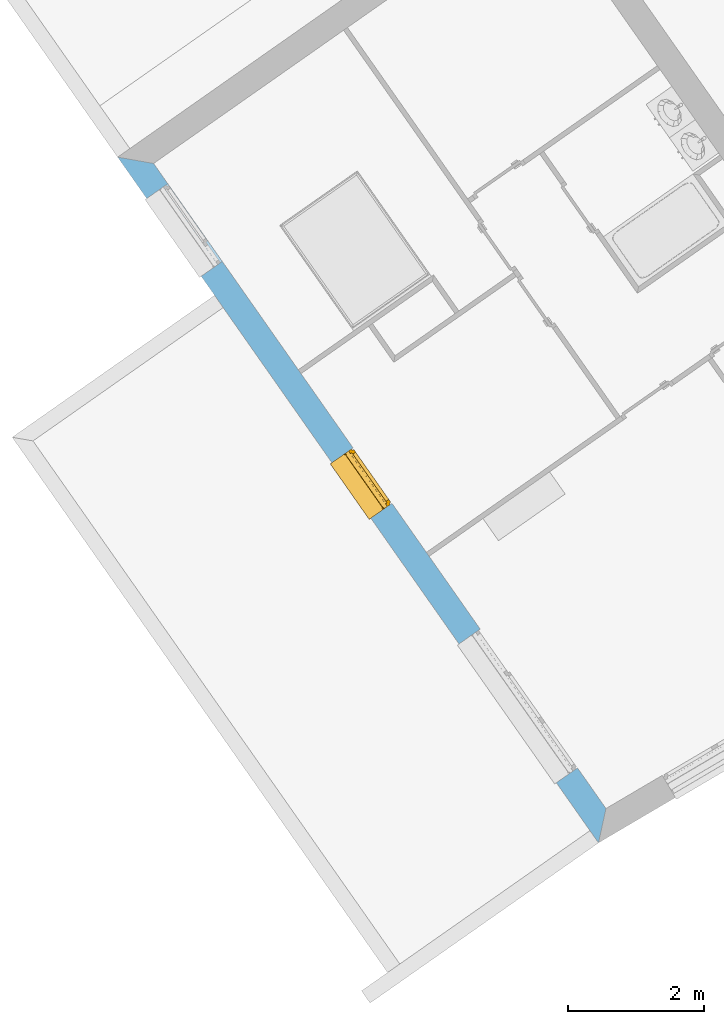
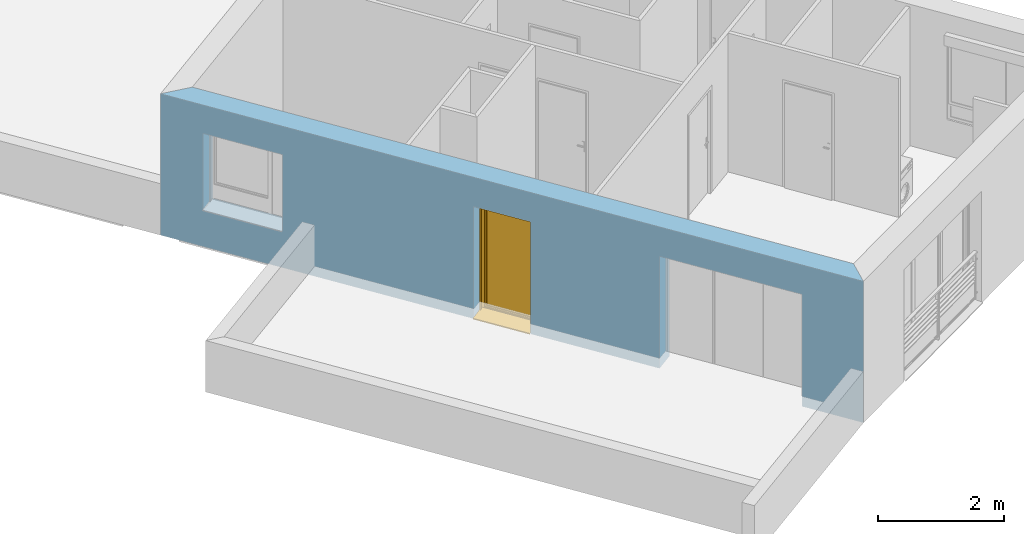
# One storey, part 26 of 121: 1 window, 3 openings, plus 1 element that does not belong to this part.
"""IFC2X3 building model written with IfcOpenShell, lengths in metres."""

import ifcopenshell
import ifcopenshell.guid

model = None  # the IFC model being written
_history = None  # IfcOwnerHistory: only IFC2X3 demands one
_inside = {}  # id of a spatial element -> (the spatial element, [elements in it])
_under = {}  # id of a project, library or spatial element -> (it, [spatial elements below it])
_declared = {}  # id of a project -> (the project, [libraries it declares])
_typed = {}  # id of a type object -> (the type object, [elements of that type])
_made_of = {}  # id of a material, layer set ... -> (it, [elements and type objects made of it])


def new_model(schema):
    """Start an empty IFC model of exactly this schema.

    Asked for "IFC4X3", IfcOpenShell would pick the latest addendum, in which some entities
    have other attributes; the version numbers below select the first issue.
    IFC2X3 requires an IfcOwnerHistory on every rooted entity: one is made here for all.
    """
    global model, _history
    if schema == "IFC4X3":
        model = ifcopenshell.file(schema_version=(4, 3, 0, 0))
    else:
        model = ifcopenshell.file(schema=schema)
    _inside.clear()
    _under.clear()
    _declared.clear()
    _typed.clear()
    _made_of.clear()
    _history = None
    if model.schema == "IFC2X3":
        org = make("IfcOrganization", Name="unknown")
        user = make(
            "IfcPersonAndOrganization",
            ThePerson=make("IfcPerson", FamilyName="unknown"),
            TheOrganization=org,
        )
        app = make(
            "IfcApplication",
            ApplicationDeveloper=org,
            Version="unknown",
            ApplicationFullName="unknown",
            ApplicationIdentifier="unknown",
        )
        _history = make(
            "IfcOwnerHistory",
            OwningUser=user,
            OwningApplication=app,
            ChangeAction="ADDED",
            CreationDate=0,
        )
    return model


def make(cls, **values):
    """One entity of the class cls with the attributes given. An attribute that is None is left unset."""
    return model.create_entity(
        cls, **{name: value for name, value in values.items() if value is not None}
    )


def entity(cls, *values):
    """Any entity or typed value of the class cls, its attributes in the order of the schema. None: left unset."""
    e = model.create_entity(cls)
    for i, value in enumerate(values):
        if value is not None:
            e[i] = value
    return e


def rooted(cls, **values):
    """An entity with a GlobalId (a new one), such as an element, a storey or a relation."""
    return make(cls, GlobalId=ifcopenshell.guid.new(), OwnerHistory=_history, **values)


def si_unit(unit_type, name, prefix=None):
    """IfcSIUnit, for example si_unit("LENGTHUNIT", "METRE", prefix="MILLI")."""
    return make("IfcSIUnit", UnitType=unit_type, Prefix=prefix, Name=name)


def converted_unit(unit_type, name, factor, base, dimensions=None, offset=None):
    """IfcConversionBasedUnit, such as the inch: factor (a typed value) times the base unit."""
    return make(
        "IfcConversionBasedUnit"
        if offset is None
        else "IfcConversionBasedUnitWithOffset",
        ConversionOffset=offset,
        Dimensions=None
        if dimensions is None
        else entity("IfcDimensionalExponents", *dimensions),
        UnitType=unit_type,
        Name=name,
        ConversionFactor=make(
            "IfcMeasureWithUnit", ValueComponent=factor, UnitComponent=base
        ),
    )


def derived_unit(unit_type, elements):
    """IfcDerivedUnit: a product of units, each with its exponent."""
    return make(
        "IfcDerivedUnit",
        Elements=[
            make("IfcDerivedUnitElement", Unit=unit, Exponent=power)
            for unit, power in elements
        ],
        UnitType=unit_type,
    )


def money_unit(currency):
    """IfcMonetaryUnit."""
    return make("IfcMonetaryUnit", Currency=currency)


def assignment(units):
    """IfcUnitAssignment: the units of a project."""
    return None if units is None else make("IfcUnitAssignment", Units=units)


def point(xyz):
    """IfcCartesianPoint."""
    return None if xyz is None else make("IfcCartesianPoint", Coordinates=xyz)


def direction(xyz):
    """IfcDirection."""
    return None if xyz is None else make("IfcDirection", DirectionRatios=xyz)


def frame(location, z_axis=None, x_axis=None):
    """IfcAxis2Placement3D, a coordinate frame: its origin and axes. An axis left out is left unset."""
    return make(
        "IfcAxis2Placement3D",
        Location=point(location),
        Axis=direction(z_axis),
        RefDirection=direction(x_axis),
    )


def origin_with_axes():
    """The frame at (0, 0, 0) with the z axis (0, 0, 1) and the x axis (1, 0, 0) written out."""
    return frame((0.0, 0.0, 0.0), z_axis=(0.0, 0.0, 1.0), x_axis=(1.0, 0.0, 0.0))


def place(relative_to, where):
    """IfcLocalPlacement: puts the frame where relative to a parent placement (None: the world)."""
    return make(
        "IfcLocalPlacement", PlacementRelTo=relative_to, RelativePlacement=where
    )


def context(
    kind, dimensions, precision=None, world=None, true_north=None, identifier=None
):
    """IfcGeometricRepresentationContext, for example the 3D "Model" context."""
    return make(
        "IfcGeometricRepresentationContext",
        ContextIdentifier=identifier,
        ContextType=kind,
        CoordinateSpaceDimension=dimensions,
        Precision=precision,
        WorldCoordinateSystem=world,
        TrueNorth=true_north,
    )


def subcontext(parent, identifier, kind, view, scale=None):
    """IfcGeometricRepresentationSubContext, for example "Body" below "Model"."""
    return make(
        "IfcGeometricRepresentationSubContext",
        ContextIdentifier=identifier,
        ContextType=kind,
        ParentContext=parent,
        TargetScale=scale,
        TargetView=view,
    )


def project(units=None, contexts=None):
    """IfcProject with its units and contexts."""
    return rooted(
        "IfcProject",
        Name="project",
        RepresentationContexts=contexts,
        UnitsInContext=assignment(units),
    )


def spatial(cls, under=None, at=None, **own):
    """A site, building, storey or space (cls), placed at a placement, below another one or the project."""
    s = rooted(cls, ObjectPlacement=at, **own)
    if under is not None:
        _under.setdefault(under.id(), (under, []))[1].append(s)
    return s


def polyline(points):
    """IfcPolyline through the points."""
    return make("IfcPolyline", Points=[point(p) for p in points])


def outline(outer, holes=None, kind="AREA"):
    """IfcArbitraryClosedProfileDef: a profile drawn as a closed curve; with holes, ...WithVoids."""
    if holes is None:
        return make("IfcArbitraryClosedProfileDef", ProfileType=kind, OuterCurve=outer)
    return make(
        "IfcArbitraryProfileDefWithVoids",
        ProfileType=kind,
        OuterCurve=outer,
        InnerCurves=holes,
    )


def extrude(swept, where, along, depth):
    """IfcExtrudedAreaSolid: the profile swept, set in the frame where, extruded along a direction by depth."""
    return make(
        "IfcExtrudedAreaSolid",
        SweptArea=swept,
        Position=where,
        ExtrudedDirection=direction(along),
        Depth=depth,
    )


def faces_of(points, faces, orient=None, outer=None):
    """IfcFace entities. A face is a list of loops; a loop is a list of indices into points, from 0.

    orient and outer hold one flag for each loop. By default every Orientation is true, the
    first loop of a face is its IfcFaceOuterBound and the others are IfcFaceBound.
    """
    made = []
    for i, loops in enumerate(faces):
        bounds = []
        for j, loop in enumerate(loops):
            is_outer = j == 0 if outer is None else outer[i][j]
            bounds.append(
                make(
                    "IfcFaceOuterBound" if is_outer else "IfcFaceBound",
                    Bound=make("IfcPolyLoop", Polygon=[points[k] for k in loop]),
                    Orientation=True if orient is None else orient[i][j],
                )
            )
        made.append(make("IfcFace", Bounds=bounds))
    return made


def open_shell(faces, orient=None, outer=None):
    """The faces of one IfcOpenShell. surface_model builds it on its shared points."""
    return ("IfcOpenShell", faces, orient, outer)


def faceted_brep(points, faces, orient=None, outer=None, voids=None):
    """IfcFacetedBrep: a solid bounded by flat faces; with voids (closed shells), ...WithVoids."""
    shared = [point(p) for p in points]
    hull = make("IfcClosedShell", CfsFaces=faces_of(shared, faces, orient, outer))
    if voids is None:
        return make("IfcFacetedBrep", Outer=hull)
    return make(
        "IfcFacetedBrepWithVoids",
        Outer=hull,
        Voids=[
            make(cls, CfsFaces=faces_of(shared, fs, o, b)) for cls, fs, o, b in voids
        ],
    )


def surface_model(cls, points, shells):
    """IfcFaceBasedSurfaceModel or IfcShellBasedSurfaceModel (cls): surfaces that need not close."""
    shared = [point(p) for p in points]
    made = [make(c, CfsFaces=faces_of(shared, fs, o, b)) for c, fs, o, b in shells]
    if cls == "IfcFaceBasedSurfaceModel":
        return make(cls, FbsmFaces=made)
    return make(cls, SbsmBoundary=made)


def shape(context_of_items, identifier, shape_type, items):
    """IfcShapeRepresentation: the items that make up one representation, for example the "Body"."""
    return make(
        "IfcShapeRepresentation",
        ContextOfItems=context_of_items,
        RepresentationIdentifier=identifier,
        RepresentationType=shape_type,
        Items=items,
    )


def source(mapping_origin, context_of_items, identifier, shape_type, items):
    """IfcRepresentationMap: a shape defined once, which mapped items show again and again."""
    return make(
        "IfcRepresentationMap",
        MappingOrigin=mapping_origin,
        MappedRepresentation=shape(context_of_items, identifier, shape_type, items),
    )


def transform(
    local_origin,
    x_axis=None,
    y_axis=None,
    z_axis=None,
    scale=None,
    scale2=None,
    scale3=None,
    uniform=True,
):
    """IfcCartesianTransformationOperator3D, or its non-uniform kind. x_axis, y_axis, z_axis: its Axis1, 2, 3."""
    if uniform:
        return make(
            "IfcCartesianTransformationOperator3D",
            Axis1=direction(x_axis),
            Axis2=direction(y_axis),
            LocalOrigin=point(local_origin),
            Scale=scale,
            Axis3=direction(z_axis),
        )
    return make(
        "IfcCartesianTransformationOperator3DnonUniform",
        Axis1=direction(x_axis),
        Axis2=direction(y_axis),
        LocalOrigin=point(local_origin),
        Scale=scale,
        Axis3=direction(z_axis),
        Scale2=scale2,
        Scale3=scale3,
    )


def mapped(mapping_source, mapping_target):
    """IfcMappedItem: shows the shape of a source again, moved by a transform."""
    return make(
        "IfcMappedItem", MappingSource=mapping_source, MappingTarget=mapping_target
    )


def material(Name=None, Category=None):
    """IfcMaterial."""
    return make("IfcMaterial", Name=Name, Category=Category)


def layer(
    of_material, thickness, ventilated=None, Name=None, Category=None, Priority=None
):
    """IfcMaterialLayer: one layer of a wall or slab, of a material (None: an air gap)."""
    return make(
        "IfcMaterialLayer",
        Material=of_material,
        LayerThickness=thickness,
        IsVentilated=ventilated,
        Name=Name,
        Category=Category,
        Priority=Priority,
    )


def layer_set(layers, Name=None):
    """IfcMaterialLayerSet."""
    return make("IfcMaterialLayerSet", MaterialLayers=layers, LayerSetName=Name)


def layer_usage(for_layer_set, set_direction, sense, offset, extent=None):
    """IfcMaterialLayerSetUsage: how a layer set lies in its element."""
    return make(
        "IfcMaterialLayerSetUsage",
        ForLayerSet=for_layer_set,
        LayerSetDirection=set_direction,
        DirectionSense=sense,
        OffsetFromReferenceLine=offset,
        ReferenceExtent=extent,
    )


def made_of(thing, what):
    """Note that an element or type object is made of a material, layer set ...; save() writes the relation."""
    if what is not None:
        _made_of.setdefault(what.id(), (what, []))[1].append(thing)
    return thing


def type_object(cls, material=None, **own):
    """A type object (cls), such as IfcWallType, which elements share."""
    return made_of(rooted(cls, **own), material)


def element(
    cls,
    number,
    at=None,
    inside=None,
    cuts=None,
    type_object=None,
    material=None,
    context=None,
    identifier="Body",
    shape_type=None,
    held_by="IfcProductDefinitionShape",
    body=None,
    shapes=None,
    **own,
):
    """One element of the class cls, such as IfcWall. Its Tag is "e" and its number.

    at: its placement. inside: the storey or other place that contains it. cuts: it is an
    opening in that element (IfcRelVoidsElement). A single representation is given by context,
    identifier, shape_type and body (its items); several are given by shapes. held_by: the class
    of the entity that holds the representations. save() writes the other relations.
    """
    e = rooted(cls, Tag="e%d" % number, ObjectPlacement=at, **own)
    if body is not None:
        shapes = [shape(context, identifier, shape_type, body)]
    if shapes is not None:
        e.Representation = make(held_by, Representations=shapes)
    if inside is not None:
        _inside.setdefault(inside.id(), (inside, []))[1].append(e)
    if cuts is not None:
        rooted(
            "IfcRelVoidsElement", RelatingBuildingElement=cuts, RelatedOpeningElement=e
        )
    if type_object is not None:
        _typed.setdefault(type_object.id(), (type_object, []))[1].append(e)
    return made_of(e, material)


def fill(opening, filler):
    """IfcRelFillsElement: the door or window that sits in an opening."""
    return rooted(
        "IfcRelFillsElement",
        RelatingOpeningElement=opening,
        RelatedBuildingElement=filler,
    )


def aggregate(whole, parts):
    """IfcRelAggregates: a whole, such as a stair, and the parts it consists of."""
    return rooted("IfcRelAggregates", RelatingObject=whole, RelatedObjects=parts)


def save(model, path):
    """Write the relations noted so far, then the file.

    IfcRelAggregates (storeys below a building ...), IfcRelContainedInSpatialStructure (elements
    in a storey), IfcRelDefinesByType, IfcRelAssociatesMaterial and IfcRelDeclares: one each for
    every whole, place, type object, material and project.
    """
    for whole, parts in _under.values():
        aggregate(whole, parts)
    for where, things in _inside.values():
        rooted(
            "IfcRelContainedInSpatialStructure",
            RelatedElements=things,
            RelatingStructure=where,
        )
    for kind, things in _typed.values():
        rooted("IfcRelDefinesByType", RelatedObjects=things, RelatingType=kind)
    for what, things in _made_of.values():
        rooted("IfcRelAssociatesMaterial", RelatedObjects=things, RelatingMaterial=what)
    for by, libraries in _declared.values():
        rooted("IfcRelDeclares", RelatingContext=by, RelatedDefinitions=libraries)
    model.write(path)


model = new_model("IFC2X3")

# Units and contexts
model_context = context("Model", 3, precision=1e-05, world=origin_with_axes(), true_north=direction((0.0, 1.0)))
body_context = subcontext(model_context, "Body", "Model", "MODEL_VIEW")
ifc_project = project(units=[si_unit("LENGTHUNIT", "METRE"), si_unit("AREAUNIT", "SQUARE_METRE"), si_unit("VOLUMEUNIT", "CUBIC_METRE"), converted_unit("PLANEANGLEUNIT", "DEGREE", entity("IfcPlaneAngleMeasure", 0.0174532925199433), si_unit("PLANEANGLEUNIT", "RADIAN"), dimensions=[0, 0, 0, 0, 0, 0, 0]), money_unit("CHF"), converted_unit("TIMEUNIT", "Year", entity("IfcTimeMeasure", 31557600.0), si_unit("TIMEUNIT", "SECOND"), dimensions=[0, 0, 1, 0, 0, 0, 0]), si_unit("MASSUNIT", "GRAM", prefix="KILO"), si_unit("THERMODYNAMICTEMPERATUREUNIT", "DEGREE_CELSIUS"), si_unit("LUMINOUSINTENSITYUNIT", "LUMEN"), si_unit("ENERGYUNIT", "JOULE", prefix="MEGA"), derived_unit("THERMALCONDUCTANCEUNIT", [(si_unit("POWERUNIT", "WATT"), 1), (si_unit("LENGTHUNIT", "METRE"), -1), (si_unit("THERMODYNAMICTEMPERATUREUNIT", "KELVIN"), -1)]), derived_unit("SPECIFICHEATCAPACITYUNIT", [(si_unit("ENERGYUNIT", "JOULE"), 1), (si_unit("MASSUNIT", "GRAM", prefix="KILO"), -1), (si_unit("THERMODYNAMICTEMPERATUREUNIT", "KELVIN"), -1)]), derived_unit("MASSDENSITYUNIT", [(si_unit("MASSUNIT", "GRAM", prefix="KILO"), 1), (si_unit("VOLUMEUNIT", "CUBIC_METRE"), -1)])], contexts=[model_context])

# Site, building, storey
site_placement = place(None, origin_with_axes())
site = spatial("IfcSite", under=ifc_project, at=site_placement, Name="Site", CompositionType="ELEMENT")
building_placement = place(site_placement, origin_with_axes())
building = spatial("IfcBuilding", under=site, at=building_placement, Name="Bâtiment", CompositionType="ELEMENT")
storey_placement = place(building_placement, frame((0.0, 0.0, 2.75), z_axis=(0.0, 0.0, 1.0), x_axis=(1.0, 0.0, 0.0)))
storey = spatial("IfcBuildingStorey", under=building, at=storey_placement, Name="Etage 1", CompositionType="ELEMENT", Elevation=2.75)

# Wall, openings, window
ifc_material_1 = material(Name="Parpaing 312445824")
ifc_layer_1 = layer(ifc_material_1, 0.22, ventilated="UNKNOWN")
ifc_material_2 = material(Name="Isolant styromousse 301821074")
ifc_layer_2 = layer(ifc_material_2, 0.16, ventilated="UNKNOWN")
ifc_layer_set = layer_set([ifc_layer_1, ifc_layer_2], Name="isol int 22+16 0836643197")
ifc_layer_usage = layer_usage(ifc_layer_set, "AXIS2", "POSITIVE", 0.0)
wall_type = type_object("IfcWallType", Name="isol int 22+16 0836643197 380", PredefinedType="NOTDEFINED")
wall_placement = place(storey_placement, frame((9549.364183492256, -1063.980358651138, 57.7), z_axis=(0.0, 0.0, 1.0), x_axis=(0.5741598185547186, -0.8187432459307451, 0.0)))
wall = element("IfcWallStandardCase", 1, at=wall_placement, inside=storey, type_object=wall_type, material=ifc_layer_usage, Name="Mur-113", context=body_context, shape_type="SweptSolid", body=[
    extrude(outline(polyline([(0.0, 0.0), (12.34881229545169, 0.0), (11.99776416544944, 0.3799999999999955), (0.3800000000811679, 0.3799999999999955), (0.0, 0.0)])), origin_with_axes(), (0.0, 0.0, 1.0), 2.75),
])
opening_1_placement = place(wall_placement, frame((1.445114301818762, 0.0, 0.7000000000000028), z_axis=(0.0, 0.0, 1.0), x_axis=(1.0, 0.0, 0.0)))
element("IfcOpeningElement", 2, at=opening_1_placement, cuts=wall, Name="Fen-045", context=body_context, shape_type="Brep", body=[
    faceted_brep([(-0.7000000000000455, 0.4800000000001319, 1.5), (0.6999999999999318, 0.4800000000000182, 1.5), (0.6999999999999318, 6.186046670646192, 1.5), (-0.7000000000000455, 6.186046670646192, 1.5), (-0.7000000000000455, 0.4800000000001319, 1.700000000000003), (0.6999999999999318, 0.4800000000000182, 1.700000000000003), (0.6999999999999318, 0.2999999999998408, 1.5), (0.6999999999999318, 0.2999999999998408, 0.0), (0.6999999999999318, 6.186046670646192, 0.0), (-0.7000000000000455, 6.186046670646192, 0.0), (-0.7000000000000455, 0.2999999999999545, 1.5), (-0.7000000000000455, 0.2999999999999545, 0.0), (-0.7000000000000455, 0.2200000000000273, 1.5), (-0.7000000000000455, 0.2200000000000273, 1.700000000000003), (0.6999999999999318, 0.2200000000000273, 1.700000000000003), (0.6999999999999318, 0.2200000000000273, 1.5), (0.6999999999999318, -5.806046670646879, 1.5), (0.6999999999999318, -5.806046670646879, 0.0), (-0.7000000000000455, -5.806046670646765, 0.0), (-0.7000000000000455, -5.806046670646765, 1.5)], [[[0, 1, 2, 3]], [[1, 0, 4, 5]], [[1, 6, 7, 8, 2]], [[2, 8, 9, 3]], [[10, 0, 3, 9, 11]], [[0, 10, 12, 13, 4]], [[14, 5, 4, 13]], [[6, 1, 5, 14, 15]], [[6, 15, 16, 17, 7]], [[7, 11, 9, 8]], [[12, 10, 11, 18, 19]], [[12, 15, 14, 13]], [[15, 12, 19, 16]], [[19, 18, 17, 16]], [[11, 7, 17, 18]]]),
])
opening_2_placement = place(wall_placement, frame((6.002004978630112, 0.0, 0.0), z_axis=(0.0, 0.0, 1.0), x_axis=(1.0, 0.0, 0.0)))
opening_2 = element("IfcOpeningElement", 3, at=opening_2_placement, cuts=wall, Name="Fen-052", context=body_context, shape_type="Brep", body=[
    faceted_brep([(-0.5, 0.4799999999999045, 2.18), (0.4999999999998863, 0.4799999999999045, 2.18), (0.4999999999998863, 6.186046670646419, 2.18), (-0.5, 6.186046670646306, 2.18), (-0.5, 0.4799999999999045, 2.380000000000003), (0.4999999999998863, 0.4799999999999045, 2.380000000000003), (0.4999999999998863, 0.2999999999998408, 2.18), (0.4999999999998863, 0.2999999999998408, 0.0), (0.4999999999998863, 6.186046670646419, 0.0), (-0.5, 6.186046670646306, 0.0), (-0.5, 0.2999999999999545, 2.18), (-0.5, 0.2999999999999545, 0.0), (-0.5, 0.2199999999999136, 2.18), (-0.5, 0.2199999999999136, 2.380000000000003), (0.4999999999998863, 0.2199999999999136, 2.380000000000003), (0.4999999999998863, 0.2199999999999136, 2.18), (0.4999999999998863, -5.806046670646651, 2.18), (0.4999999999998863, -5.806046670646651, 0.0), (-0.5000000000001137, -5.806046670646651, 0.0), (-0.5000000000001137, -5.806046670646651, 2.18)], [[[0, 1, 2, 3]], [[1, 0, 4, 5]], [[1, 6, 7, 8, 2]], [[2, 8, 9, 3]], [[10, 0, 3, 9, 11]], [[0, 10, 12, 13, 4]], [[4, 13, 14, 5]], [[6, 1, 5, 14, 15]], [[6, 15, 16, 17, 7]], [[7, 11, 9, 8]], [[12, 10, 11, 18, 19]], [[12, 15, 14, 13]], [[15, 12, 19, 16]], [[19, 18, 17, 16]], [[11, 7, 17, 18]]]),
])
opening_3_placement = place(wall_placement, frame((10.01618190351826, 0.0, 0.0), z_axis=(0.0, 0.0, 1.0), x_axis=(1.0, 0.0, 0.0)))
element("IfcOpeningElement", 4, at=opening_3_placement, cuts=wall, Name="Fen-045", context=body_context, shape_type="Brep", body=[
    faceted_brep([(-1.25, 0.4800000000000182, 2.18), (1.25, 0.4799999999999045, 2.18), (1.249999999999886, 6.186046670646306, 2.18), (-1.25, 6.186046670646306, 2.18), (-1.25, 0.4800000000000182, 2.380000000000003), (1.25, 0.4799999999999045, 2.380000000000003), (1.249999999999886, 0.2999999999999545, 2.18), (1.249999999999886, 0.2999999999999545, 0.0), (1.249999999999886, 6.186046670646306, 0.0), (-1.25, 6.186046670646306, 0.0), (-1.25, 0.2999999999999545, 2.18), (-1.25, 0.2999999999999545, 0.0), (-1.25, 0.2199999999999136, 2.18), (-1.25, 0.2199999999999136, 2.380000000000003), (1.25, 0.2199999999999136, 2.380000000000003), (1.25, 0.2199999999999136, 2.18), (1.25, -5.806046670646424, 2.18), (1.25, -5.806046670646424, 0.0), (-1.25, -5.806046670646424, 0.0), (-1.25, -5.806046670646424, 2.18)], [[[0, 1, 2, 3]], [[1, 0, 4, 5]], [[1, 6, 7, 8, 2]], [[2, 8, 9, 3]], [[10, 0, 3, 9, 11]], [[0, 10, 12, 13, 4]], [[4, 13, 14, 5]], [[6, 1, 5, 14, 15]], [[6, 15, 16, 17, 7]], [[7, 11, 9, 8]], [[12, 10, 11, 18, 19]], [[12, 15, 14, 13]], [[15, 12, 19, 16]], [[19, 18, 17, 16]], [[11, 7, 17, 18]]]),
])
window_style = type_object("IfcWindowStyle", Name="Fenêtre variable 27", ConstructionType="NOTDEFINED", OperationType="SINGLE_PANEL", ParameterTakesPrecedence=False, Sizeable=False)
shared_shape = source(origin_with_axes(), body_context, "Body", "SurfaceModel", [
    surface_model("IfcShellBasedSurfaceModel", [(0.5, -0.05100000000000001, 0.05), (-0.5, -0.05100000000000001, 0.05000000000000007), (-0.5, -0.05100000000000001, 0.04000000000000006), (0.5, -0.05100000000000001, 0.04), (-0.5, -0.3799999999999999, 0.02900000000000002), (0.5, -0.3799999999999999, 0.02899999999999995), (-0.5, -0.3799999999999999, 0.009000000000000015), (0.5, -0.3799999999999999, 0.008999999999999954), (-0.5, -0.3699999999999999, 0.01900000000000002), (0.5, -0.3699999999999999, 0.01899999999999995)], [open_shell([[[0, 1, 2, 3]], [[3, 2, 4, 5]], [[5, 4, 6, 7]], [[7, 6, 8, 9]]])]),
    faceted_brep([(0.5, -0.13, 2.38), (0.5, 0.13, 2.38), (0.497, 0.13, 2.38), (0.497, -0.13, 2.38), (0.5, -0.13, 2.18), (0.5, 0.13, 2.18), (0.497, 0.13, 2.18), (0.497, -0.13, 2.18)], [[[0, 1, 2, 3]], [[0, 4, 5, 1]], [[1, 5, 6, 2]], [[3, 2, 6, 7]], [[4, 0, 3, 7]], [[5, 4, 7, 6]]]),
    faceted_brep([(-0.497, -0.1299999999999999, 2.38), (-0.497, 0.1300000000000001, 2.38), (-0.5, 0.1300000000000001, 2.38), (-0.5, -0.1299999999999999, 2.38), (-0.497, -0.1299999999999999, 2.18), (-0.497, 0.1300000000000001, 2.18), (-0.5, 0.1300000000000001, 2.18), (-0.5, -0.1299999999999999, 2.18)], [[[0, 1, 2, 3]], [[0, 4, 5, 1]], [[1, 5, 6, 2]], [[3, 2, 6, 7]], [[4, 0, 3, 7]], [[5, 4, 7, 6]]]),
    faceted_brep([(0.497, -0.13, 2.18), (0.497, -0.13, 2.38), (-0.497, -0.1299999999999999, 2.38), (-0.497, -0.1299999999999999, 2.18), (0.497, -0.127, 2.18), (0.497, -0.127, 2.377), (0.497, 0.127, 2.377), (0.497, 0.127, 2.183), (0.497, -0.108, 2.183), (0.497, -0.108, 2.18), (0.497, 0.13, 2.18), (0.497, 0.13, 2.38), (-0.497, 0.1300000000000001, 2.38), (-0.497, 0.1300000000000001, 2.18), (-0.497, -0.1079999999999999, 2.18), (-0.497, -0.1079999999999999, 2.183), (-0.497, 0.1270000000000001, 2.183), (-0.497, 0.1270000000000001, 2.377), (-0.497, -0.1269999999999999, 2.377), (-0.497, -0.1269999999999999, 2.18)], [[[0, 1, 2, 3]], [[0, 4, 5, 6, 7, 8, 9, 10, 11, 1]], [[1, 11, 12, 2]], [[3, 2, 12, 13, 14, 15, 16, 17, 18, 19]], [[4, 0, 3, 19]], [[5, 4, 19, 18]], [[6, 5, 18, 17]], [[7, 6, 17, 16]], [[8, 7, 16, 15]], [[9, 8, 15, 14]], [[10, 9, 14, 13]], [[11, 10, 13, 12]]]),
    faceted_brep([(0.494, -0.08075423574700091, 2.265760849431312), (0.494, -0.07705479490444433, 2.251954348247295), (0.494, -0.07101408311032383, 2.239), (0.494, -0.06281564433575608, 2.227291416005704), (0.494, -0.05270858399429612, 2.217184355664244), (0.494, -0.04099999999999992, 2.208985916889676), (0.494, -0.02804565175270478, 2.202945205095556), (0.494, -0.01423915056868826, 2.199245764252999), (0.494, 0.0, 2.198), (0.494, 0.01423915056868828, 2.199245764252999), (0.494, 0.02804565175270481, 2.202945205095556), (0.494, 0.04099999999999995, 2.208985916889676), (0.494, 0.05270858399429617, 2.217184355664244), (0.494, 0.06281564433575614, 2.227291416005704), (0.494, 0.0710140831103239, 2.239), (0.494, 0.07705479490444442, 2.251954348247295), (0.494, 0.08075423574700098, 2.265760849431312), (0.494, 0.08199999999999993, 2.28), (0.494, 0.080754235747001, 2.294239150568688), (0.494, 0.07705479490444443, 2.308045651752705), (0.494, 0.07101408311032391, 2.321), (0.494, 0.06281564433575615, 2.332708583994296), (0.494, 0.05270858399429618, 2.342815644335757), (0.494, 0.04099999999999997, 2.351014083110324), (0.494, 0.02804565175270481, 2.357054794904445), (0.494, 0.01423915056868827, 2.360754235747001), (0.494, 0.0, 2.362), (0.494, -0.0142391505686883, 2.360754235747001), (0.494, -0.02804565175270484, 2.357054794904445), (0.494, -0.041, 2.351014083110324), (0.494, -0.05270858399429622, 2.342815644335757), (0.494, -0.0628156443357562, 2.332708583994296), (0.494, -0.07101408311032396, 2.321), (0.494, -0.07705479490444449, 2.308045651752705), (0.494, -0.08075423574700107, 2.294239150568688), (0.494, -0.082, 2.28), (-0.494, -0.08075423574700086, 2.265760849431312), (-0.494, -0.07705479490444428, 2.251954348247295), (-0.494, -0.07101408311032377, 2.239), (-0.494, -0.06281564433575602, 2.227291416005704), (-0.494, -0.05270858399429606, 2.217184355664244), (-0.494, -0.04099999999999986, 2.208985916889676), (-0.494, -0.02804565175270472, 2.202945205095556), (-0.494, -0.01423915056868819, 2.199245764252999), (-0.494, 0.0, 2.198), (-0.494, 0.01423915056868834, 2.199245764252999), (-0.494, 0.02804565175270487, 2.202945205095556), (-0.494, 0.04100000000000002, 2.208985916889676), (-0.494, 0.05270858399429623, 2.217184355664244), (-0.494, 0.06281564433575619, 2.227291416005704), (-0.494, 0.07101408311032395, 2.239), (-0.494, 0.07705479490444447, 2.251954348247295), (-0.494, 0.08075423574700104, 2.265760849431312), (-0.494, 0.08199999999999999, 2.28), (-0.494, 0.08075423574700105, 2.294239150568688), (-0.494, 0.07705479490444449, 2.308045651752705), (-0.494, 0.07101408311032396, 2.321), (-0.494, 0.0628156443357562, 2.332708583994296), (-0.494, 0.05270858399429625, 2.342815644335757), (-0.494, 0.04100000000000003, 2.351014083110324), (-0.494, 0.02804565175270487, 2.357054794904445), (-0.494, 0.01423915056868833, 2.360754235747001), (-0.494, 0.0, 2.362), (-0.494, -0.01423915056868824, 2.360754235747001), (-0.494, -0.02804565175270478, 2.357054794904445), (-0.494, -0.04099999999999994, 2.351014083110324), (-0.494, -0.05270858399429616, 2.342815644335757), (-0.494, -0.06281564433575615, 2.332708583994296), (-0.494, -0.07101408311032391, 2.321), (-0.494, -0.07705479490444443, 2.308045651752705), (-0.494, -0.08075423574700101, 2.294239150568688), (-0.494, -0.08199999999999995, 2.28)], [[[0, 1, 2, 3, 4, 5, 6, 7, 8, 9, 10, 11, 12, 13, 14, 15, 16, 17, 18, 19, 20, 21, 22, 23, 24, 25, 26, 27, 28, 29, 30, 31, 32, 33, 34, 35]], [[1, 0, 36, 37]], [[2, 1, 37, 38]], [[3, 2, 38, 39]], [[4, 3, 39, 40]], [[5, 4, 40, 41]], [[6, 5, 41, 42]], [[7, 6, 42, 43]], [[8, 7, 43, 44]], [[9, 8, 44, 45]], [[10, 9, 45, 46]], [[11, 10, 46, 47]], [[12, 11, 47, 48]], [[13, 12, 48, 49]], [[14, 13, 49, 50]], [[15, 14, 50, 51]], [[16, 15, 51, 52]], [[17, 16, 52, 53]], [[18, 17, 53, 54]], [[19, 18, 54, 55]], [[20, 19, 55, 56]], [[21, 20, 56, 57]], [[22, 21, 57, 58]], [[23, 22, 58, 59]], [[24, 23, 59, 60]], [[25, 24, 60, 61]], [[26, 25, 61, 62]], [[27, 26, 62, 63]], [[28, 27, 63, 64]], [[29, 28, 64, 65]], [[30, 29, 65, 66]], [[31, 30, 66, 67]], [[32, 31, 67, 68]], [[33, 32, 68, 69]], [[34, 33, 69, 70]], [[35, 34, 70, 71]], [[0, 35, 71, 36]], [[36, 71, 70, 69, 68, 67, 66, 65, 64, 63, 62, 61, 60, 59, 58, 57, 56, 55, 54, 53, 52, 51, 50, 49, 48, 47, 46, 45, 44, 43, 42, 41, 40, 39, 38, 37]]]),
    faceted_brep([(-0.5, -0.105, 0.03), (-0.5, -0.13, 0.03), (-0.5, -0.1299999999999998, 2.18), (-0.5, -0.1049999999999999, 2.18), (-0.475, -0.105, 0.03), (-0.475, -0.108, 0.03), (-0.497, -0.108, 0.03), (-0.497, -0.127, 0.03), (-0.475, -0.127, 0.03), (-0.475, -0.13, 0.03), (-0.475, -0.1299999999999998, 2.18), (-0.475, -0.1269999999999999, 2.18), (-0.497, -0.1269999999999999, 2.18), (-0.497, -0.1079999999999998, 2.18), (-0.475, -0.1079999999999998, 2.18), (-0.475, -0.1049999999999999, 2.18)], [[[0, 1, 2, 3]], [[0, 4, 5, 6, 7, 8, 9, 1]], [[1, 9, 10, 2]], [[3, 2, 10, 11, 12, 13, 14, 15]], [[4, 0, 3, 15]], [[5, 4, 15, 14]], [[6, 5, 14, 13]], [[7, 6, 13, 12]], [[8, 7, 12, 11]], [[9, 8, 11, 10]]]),
    faceted_brep([(0.5, -0.105, 0.03), (0.5, -0.1049999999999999, 2.18), (0.5, -0.1299999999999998, 2.18), (0.5, -0.13, 0.03), (0.475, -0.105, 0.03), (0.475, -0.1049999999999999, 2.18), (0.475, -0.1079999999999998, 2.18), (0.497, -0.1079999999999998, 2.18), (0.497, -0.1269999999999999, 2.18), (0.475, -0.1269999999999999, 2.18), (0.475, -0.1299999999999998, 2.18), (0.475, -0.13, 0.03), (0.475, -0.127, 0.03), (0.497, -0.127, 0.03), (0.497, -0.108, 0.03), (0.475, -0.108, 0.03)], [[[0, 1, 2, 3]], [[4, 5, 1, 0]], [[1, 5, 6, 7, 8, 9, 10, 2]], [[3, 2, 10, 11]], [[0, 3, 11, 12, 13, 14, 15, 4]], [[15, 6, 5, 4]], [[14, 7, 6, 15]], [[13, 8, 7, 14]], [[12, 9, 8, 13]], [[11, 10, 9, 12]]]),
    surface_model("IfcShellBasedSurfaceModel", [(0.497, -0.115, 2.28), (-0.497, -0.1149999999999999, 2.28), (-0.497, -0.1199999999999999, 2.28), (0.497, -0.12, 2.28), (0.497, -0.115, 2.28), (0.497, -0.12, 2.28), (-0.497, -0.1199999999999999, 2.28), (-0.497, -0.1149999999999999, 2.28)], [open_shell([[[0, 1, 2, 3]], [[4, 5, 6, 7]]])]),
    faceted_brep([(0.497, -0.115, 2.28), (0.497, -0.1166666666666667, 2.263333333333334), (-0.497, -0.1166666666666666, 2.263333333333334), (-0.497, -0.1149999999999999, 2.28), (0.497, -0.12, 2.28), (0.497, -0.1216666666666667, 2.263333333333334), (0.497, -0.1216666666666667, 2.246666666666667), (0.497, -0.12, 2.23), (0.497, -0.115, 2.23), (0.497, -0.1166666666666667, 2.246666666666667), (-0.497, -0.1166666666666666, 2.246666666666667), (-0.497, -0.1149999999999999, 2.23), (-0.497, -0.1199999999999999, 2.23), (-0.497, -0.1216666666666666, 2.246666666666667), (-0.497, -0.1216666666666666, 2.263333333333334), (-0.497, -0.1199999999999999, 2.28)], [[[0, 1, 2, 3]], [[0, 4, 5, 6, 7, 8, 9, 1]], [[1, 9, 10, 2]], [[3, 2, 10, 11, 12, 13, 14, 15]], [[4, 0, 3, 15]], [[5, 4, 15, 14]], [[6, 5, 14, 13]], [[7, 6, 13, 12]], [[8, 7, 12, 11]], [[9, 8, 11, 10]]]),
    faceted_brep([(0.497, -0.115, 2.23), (0.497, -0.1166666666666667, 2.213333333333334), (-0.497, -0.1166666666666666, 2.213333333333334), (-0.497, -0.1149999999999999, 2.23), (0.497, -0.12, 2.23), (0.497, -0.1216666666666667, 2.213333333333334), (0.497, -0.1216666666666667, 2.196666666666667), (0.497, -0.12, 2.180000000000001), (0.497, -0.115, 2.180000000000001), (0.497, -0.1166666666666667, 2.196666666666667), (-0.497, -0.1166666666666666, 2.196666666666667), (-0.497, -0.1149999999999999, 2.180000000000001), (-0.497, -0.1199999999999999, 2.180000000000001), (-0.497, -0.1216666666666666, 2.196666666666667), (-0.497, -0.1216666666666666, 2.213333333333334), (-0.497, -0.1199999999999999, 2.23)], [[[0, 1, 2, 3]], [[0, 4, 5, 6, 7, 8, 9, 1]], [[1, 9, 10, 2]], [[3, 2, 10, 11, 12, 13, 14, 15]], [[4, 0, 3, 15]], [[5, 4, 15, 14]], [[6, 5, 14, 13]], [[7, 6, 13, 12]], [[8, 7, 12, 11]], [[9, 8, 11, 10]]]),
    faceted_brep([(0.475, 0.0, 2.13), (0.475, -0.02500000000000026, 2.13), (0.45, -0.02500000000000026, 2.13), (0.45, -0.05000000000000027, 2.13), (0.5, -0.05000000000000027, 2.13), (0.5, 0.0, 2.13), (0.475, 0.0, 0.05000000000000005), (0.475, -0.02500000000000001, 0.05000000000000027), (0.45, -0.02500000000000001, 0.05000000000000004), (0.45, -0.05000000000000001, 0.05000000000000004), (0.5, -0.05000000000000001, 0.05000000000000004), (0.5, 0.0, 0.05000000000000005)], [[[0, 1, 2, 3, 4, 5]], [[1, 0, 6, 7]], [[8, 2, 1, 7]], [[2, 8, 9, 3]], [[4, 3, 9, 10]], [[5, 4, 10, 11]], [[6, 0, 5, 11]], [[7, 6, 11, 10, 9, 8]]]),
    faceted_brep([(-0.45, -0.02500000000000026, 2.13), (-0.475, -0.02500000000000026, 2.13), (-0.475, 0.0, 2.13), (-0.5, 0.0, 2.13), (-0.5, -0.05000000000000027, 2.13), (-0.45, -0.05000000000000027, 2.13), (-0.45, -0.02500000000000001, 0.05000000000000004), (-0.475, -0.02500000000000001, 0.05000000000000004), (-0.475, 0.0, 0.05000000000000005), (-0.5, 0.0, 0.05000000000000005), (-0.5, -0.05000000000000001, 0.05000000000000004), (-0.45, -0.05000000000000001, 0.05000000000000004)], [[[0, 1, 2, 3, 4, 5]], [[1, 0, 6, 7]], [[8, 2, 1, 7]], [[2, 8, 9, 3]], [[9, 10, 4, 3]], [[10, 11, 5, 4]], [[6, 0, 5, 11]], [[7, 6, 11, 10, 9, 8]]]),
    faceted_brep([(-0.45, -0.02500000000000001, 0.05000000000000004), (-0.475, -0.02500000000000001, 0.05000000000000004), (-0.475, 0.0, 0.05000000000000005), (-0.5, 0.0, 0.05000000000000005), (-0.5, -0.05000000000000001, 0.05000000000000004), (-0.45, -0.05000000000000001, 0.05000000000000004), (0.45, -0.02500000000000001, 0.05000000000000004), (0.475, -0.02500000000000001, 0.05000000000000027), (0.475, -0.025, 0.02499999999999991), (-0.475, -0.025, 0.02499999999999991), (-0.475, 0.0, 0.02499999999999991), (0.475, 0.0, 0.02499999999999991), (0.475, 0.0, 0.05000000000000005), (0.5, 0.0, 0.05000000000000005), (0.5, 0.0, 0.0), (-0.5, 0.0, 0.0), (-0.5, -0.05, 0.0), (0.5, -0.05000000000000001, 0.05000000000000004), (0.45, -0.05000000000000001, 0.05000000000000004), (0.5, -0.05, 0.0)], [[[0, 1, 2, 3, 4, 5]], [[1, 0, 6, 7, 8, 9]], [[10, 2, 1, 9]], [[11, 12, 13, 14, 15, 3, 2, 10]], [[15, 16, 4, 3]], [[17, 18, 5, 4, 16, 19]], [[6, 0, 5, 18]], [[7, 6, 18, 17, 13, 12]], [[7, 12, 11, 8]], [[11, 10, 9, 8]], [[13, 17, 19, 14]], [[14, 19, 16, 15]]]),
    faceted_brep([(0.475, 0.0, 2.13), (0.475, 0.0, 2.155), (-0.475, 0.0, 2.155), (-0.475, 0.0, 2.13), (-0.5, 0.0, 2.13), (-0.5, 0.0, 2.18), (0.5, 0.0, 2.18), (0.5, 0.0, 2.13), (0.475, -0.02500000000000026, 2.13), (0.475, -0.02500000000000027, 2.155), (-0.475, -0.02500000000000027, 2.155), (-0.475, -0.02500000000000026, 2.13), (-0.45, -0.02500000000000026, 2.13), (-0.45, -0.05000000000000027, 2.13), (-0.5, -0.05000000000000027, 2.13), (-0.5, -0.05000000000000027, 2.18), (0.5, -0.05000000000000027, 2.18), (0.5, -0.05000000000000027, 2.13), (0.45, -0.05000000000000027, 2.13), (0.45, -0.02500000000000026, 2.13)], [[[0, 1, 2, 3, 4, 5, 6, 7]], [[1, 0, 8, 9]], [[2, 1, 9, 10]], [[3, 2, 10, 11]], [[11, 12, 13, 14, 4, 3]], [[4, 14, 15, 5]], [[5, 15, 16, 6]], [[6, 16, 17, 7]], [[8, 0, 7, 17, 18, 19]], [[12, 11, 10, 9, 8, 19]], [[12, 19, 18, 13]], [[14, 13, 18, 17, 16, 15]]]),
    faceted_brep([(0.425, -0.02500000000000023, 2.105), (0.475, -0.02500000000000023, 2.105), (0.475, 0.02499999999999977, 2.105), (0.425, 0.02499999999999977, 2.105), (0.425, -0.02499999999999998, 0.07500000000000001), (0.475, -0.02499999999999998, 0.07500000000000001), (0.475, 0.02500000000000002, 0.07500000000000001), (0.425, 0.02500000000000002, 0.07500000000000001)], [[[0, 1, 2, 3]], [[0, 4, 5, 1]], [[1, 5, 6, 2]], [[3, 2, 6, 7]], [[4, 0, 3, 7]], [[5, 4, 7, 6]]]),
    faceted_brep([(-0.425, -0.02500000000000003, 0.07500000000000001), (-0.475, -0.02500000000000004, 0.07500000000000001), (-0.475, 0.02499999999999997, 0.07500000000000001), (-0.425, 0.02499999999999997, 0.07500000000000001), (-0.425, -0.02500000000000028, 2.105), (-0.475, -0.02500000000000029, 2.105), (-0.475, 0.02499999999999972, 2.105), (-0.425, 0.02499999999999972, 2.105)], [[[0, 1, 2, 3]], [[0, 4, 5, 1]], [[1, 5, 6, 2]], [[3, 2, 6, 7]], [[4, 0, 3, 7]], [[5, 4, 7, 6]]]),
    faceted_brep([(-0.475, -0.02500000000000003, 0.025), (-0.475, -0.02500000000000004, 0.07500000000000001), (-0.475, 0.02499999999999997, 0.07500000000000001), (-0.475, 0.02499999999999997, 0.02500000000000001), (0.475, -0.02499999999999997, 0.025), (0.475, -0.02499999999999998, 0.07500000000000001), (0.425, -0.02499999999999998, 0.07500000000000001), (-0.425, -0.02500000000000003, 0.07500000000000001), (-0.425, 0.02499999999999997, 0.07500000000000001), (0.425, 0.02500000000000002, 0.07500000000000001), (0.475, 0.02500000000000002, 0.07500000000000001), (0.475, 0.02500000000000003, 0.02500000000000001)], [[[0, 1, 2, 3]], [[0, 4, 5, 6, 7, 1]], [[1, 7, 8, 2]], [[3, 2, 8, 9, 10, 11]], [[4, 0, 3, 11]], [[5, 4, 11, 10]], [[6, 5, 10, 9]], [[7, 6, 9, 8]]]),
    faceted_brep([(0.475, -0.02500000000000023, 2.155), (0.475, -0.02500000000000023, 2.105), (0.475, 0.02499999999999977, 2.105), (0.475, 0.02499999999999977, 2.155), (-0.475, -0.02500000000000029, 2.155), (-0.475, -0.02500000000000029, 2.105), (-0.425, -0.02500000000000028, 2.105), (0.425, -0.02500000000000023, 2.105), (0.425, 0.02499999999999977, 2.105), (-0.425, 0.02499999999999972, 2.105), (-0.475, 0.02499999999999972, 2.105), (-0.475, 0.02499999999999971, 2.155)], [[[0, 1, 2, 3]], [[0, 4, 5, 6, 7, 1]], [[1, 7, 8, 2]], [[3, 2, 8, 9, 10, 11]], [[4, 0, 3, 11]], [[5, 4, 11, 10]], [[6, 5, 10, 9]], [[7, 6, 9, 8]]]),
    surface_model("IfcShellBasedSurfaceModel", [(0.425, -0.01000000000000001, 0.07500000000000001), (0.425, -0.01000000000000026, 2.105), (-0.425, -0.01000000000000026, 2.105), (-0.425, -0.01000000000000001, 0.07500000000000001)], [open_shell([[[0, 1, 2, 3]]])]),
    surface_model("IfcShellBasedSurfaceModel", [(0.425, 0.009999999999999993, 0.07500000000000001), (-0.425, 0.009999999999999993, 0.07500000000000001), (-0.425, 0.009999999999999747, 2.105), (0.425, 0.009999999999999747, 2.105)], [open_shell([[[0, 1, 2, 3]]])]),
])
window_placement = place(opening_2_placement, frame((-0.5000000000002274, 0.0, 0.0), z_axis=(0.0, 0.0, 1.0), x_axis=(1.0, 0.0, 0.0)))
window = element("IfcWindow", 5, at=window_placement, inside=storey, type_object=window_style, Name="Fen-052", OverallHeight=2.18, OverallWidth=1.0, context=body_context, shape_type="MappedRepresentation", body=[
    mapped(shared_shape, transform((0.4999999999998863, 0.3499999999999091, 0.0))),
])
fill(opening_2, window)

save(model, "model.ifc")
